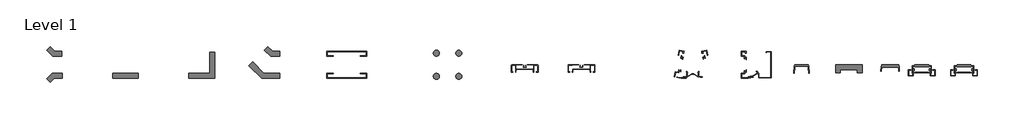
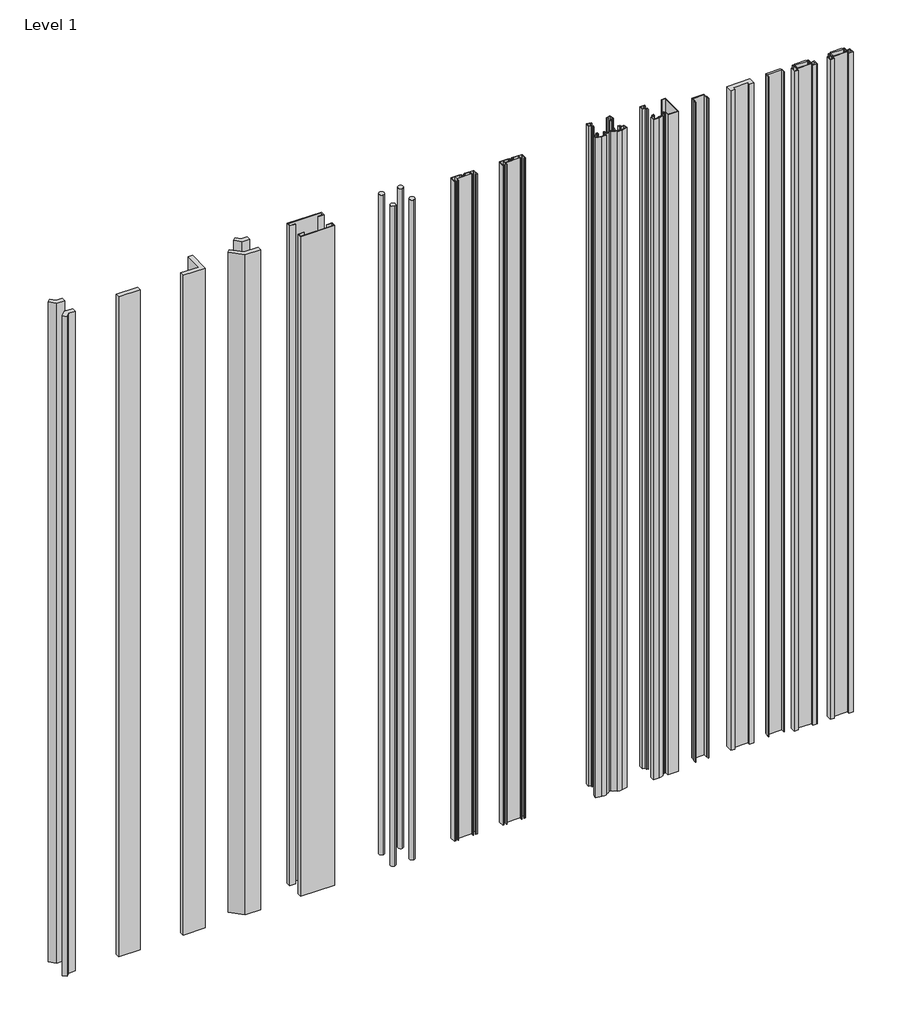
# One storey, incomplete: 15 proxies.
"""IFC4 building model written with IfcOpenShell, lengths in millimetres."""

from ifc_helpers import new_model, si_unit, origin, place, context, project, spatial, transform, mapped, element, save
from components import specialty_equipment_fa887806, specialty_equipment_7dc3c72a, specialty_equipment_0dd9da7d, specialty_equipment_5bb1abb4, specialty_equipment_8b8a6108, four_way_connection_a5283016, wall_start_dd3a8c03, three_way_corner_1816b13c, two_way_fc3571d5, two_way_corner_a34cc39f, wall_end_62e6ae35, wall_end_835682c7, wall_start_b15cfce1

model = new_model("IFC4")

# Units and contexts
model_context = context("Model", 3, world=origin())
ifc_project = project(units=[si_unit("LENGTHUNIT", "METRE", prefix="MILLI")], contexts=[model_context])

# Site, building, storey
site = spatial("IfcSite", under=ifc_project)
building = spatial("IfcBuilding", under=site)
storey = spatial("IfcBuildingStorey", under=building, Name="Level 1", Elevation=0.0)

# Proxies
placement = place(None, origin())
specialty_equipment_shape = specialty_equipment_fa887806(model_context)
element("IfcBuildingElementProxy", 1, Name="Connection-Corner-Teknion-Altos-Three_Way_FKCH133 : 135º Connection", ObjectType="Connection-Corner-Teknion-Altos-Three_Way_FKCH133 : 135º Connection", at=placement, inside=storey, context=model_context, shape_type="MappedRepresentation", body=[
    mapped(specialty_equipment_shape, transform((12943.5865879, 1812.3522105, 0.0), x_axis=(1.0, 0.0, 0.0), y_axis=(0.0, 1.0, 0.0), z_axis=(0.0, 0.0, 1.0))),
])
specialty_equipment_2_shape = specialty_equipment_7dc3c72a(model_context)
element("IfcBuildingElementProxy", 2, Name="Connection-Corner-Teknion-Altos-Two_Way_FKCH90 : 90º Connection", ObjectType="Connection-Corner-Teknion-Altos-Two_Way_FKCH90 : 90º Connection", at=placement, inside=storey, context=model_context, shape_type="MappedRepresentation", body=[
    mapped(specialty_equipment_2_shape, transform((13511.6759184, 1812.3522105, 0.0), x_axis=(1.0, 0.0, 0.0), y_axis=(0.0, 1.0, 0.0), z_axis=(0.0, 0.0, 1.0))),
])
specialty_equipment_3_shape = specialty_equipment_0dd9da7d(model_context)
element("IfcBuildingElementProxy", 3, Name="Connection-Corner-Teknion-Altos-Three_Way_FKCH180 : 180º Connection", ObjectType="Connection-Corner-Teknion-Altos-Three_Way_FKCH180 : 180º Connection", at=placement, inside=storey, context=model_context, shape_type="MappedRepresentation", body=[
    mapped(specialty_equipment_3_shape, transform((13228.8906757, 1812.3522105, 0.0), x_axis=(1.0, 0.0, 0.0), y_axis=(0.0, 1.0, 0.0), z_axis=(0.0, 0.0, 1.0))),
])
specialty_equipment_4_shape = specialty_equipment_5bb1abb4(model_context)
element("IfcBuildingElementProxy", 4, Name="Connection-Corner-Teknion-Altos-Two_Way_FKCH132 : 135º Connection", ObjectType="Connection-Corner-Teknion-Altos-Two_Way_FKCH132 : 135º Connection", at=placement, inside=storey, context=model_context, shape_type="MappedRepresentation", body=[
    mapped(specialty_equipment_4_shape, transform((13753.5317181, 1812.3522105, 0.0), x_axis=(1.0, 0.0, 0.0), y_axis=(0.0, 1.0, 0.0), z_axis=(0.0, 0.0, 1.0))),
])
specialty_equipment_5_shape = specialty_equipment_8b8a6108(model_context)
element("IfcBuildingElementProxy", 5, Name="Connection-Teknion-Altos-Three_Way_On_Off_Module_FKM3 : 180º Connection, Off-Module", ObjectType="Connection-Teknion-Altos-Three_Way_On_Off_Module_FKM3 : 180º Connection, Off-Module", at=placement, inside=storey, context=model_context, shape_type="MappedRepresentation", body=[
    mapped(specialty_equipment_5_shape, transform((14713.5488778, 1812.3522105, 0.0), x_axis=(1.0, 0.0, 0.0), y_axis=(0.0, 1.0, 0.0), z_axis=(0.0, 0.0, 1.0))),
])
element("IfcBuildingElementProxy", 6, Name="Connection-Teknion-Altos-Three_Way_On_Off_Module_FKM3 : 180º Connection, On-Module", ObjectType="Connection-Teknion-Altos-Three_Way_On_Off_Module_FKM3 : 180º Connection, On-Module", at=placement, inside=storey, context=model_context, shape_type="MappedRepresentation", body=[
    mapped(specialty_equipment_5_shape, transform((14925.0889178, 1812.3522105, 0.0), x_axis=(1.0, 0.0, 0.0), y_axis=(0.0, 1.0, 0.0), z_axis=(0.0, 0.0, 1.0))),
])
four_way_connection_shape = four_way_connection_a5283016(model_context)
element("IfcBuildingElementProxy", 7, Name="Connection-Teknion-Altos-Four_Way_FKC4 : Four Way Connection", ObjectType="Connection-Teknion-Altos-Four_Way_FKC4 : Four Way Connection", at=placement, inside=storey, context=model_context, shape_type="MappedRepresentation", body=[
    mapped(four_way_connection_shape, transform((14427.1280266, 1812.3522105, 0.0), x_axis=(1.0, 0.0, 0.0), y_axis=(0.0, 1.0, 0.0), z_axis=(0.0, 0.0, 1.0))),
])
wall_start_shape = wall_start_dd3a8c03(model_context)
element("IfcBuildingElementProxy", 8, Name="Connection-Portrait_Adjustable_Wall_Start-Teknion-Altos-FPKW : Portrait Adjustable Wall Start", ObjectType="Connection-Portrait_Adjustable_Wall_Start-Teknion-Altos-FPKW : Portrait Adjustable Wall Start", at=placement, inside=storey, context=model_context, shape_type="MappedRepresentation", body=[
    mapped(wall_start_shape, transform((16190.9464942, 1812.3522105, 0.0), x_axis=(0.0, -1.0, 0.0), y_axis=(1.0, 0.0, 0.0), z_axis=(0.0, 0.0, 1.0))),
])
three_way_corner_shape = three_way_corner_1816b13c(model_context)
element("IfcBuildingElementProxy", 9, Name="Connection-Variable_Angle-Teknion-Altos-Three_Way_FKCA3 : Three Way Corner", ObjectType="Connection-Variable_Angle-Teknion-Altos-Three_Way_FKCA3 : Three Way Corner", at=placement, inside=storey, context=model_context, shape_type="MappedRepresentation", body=[
    mapped(three_way_corner_shape, transform((15339.1734466, 1863.9217334, 0.0), x_axis=(1.0, 0.0, 0.0), y_axis=(0.0, 1.0, 0.0), z_axis=(0.0, 0.0, 1.0))),
])
two_way_shape = two_way_fc3571d5(model_context)
element("IfcBuildingElementProxy", 10, Name="Connection-Teknion-Altos-Aluminum_Fascia_FFFK : Two Way", ObjectType="Connection-Teknion-Altos-Aluminum_Fascia_FFFK : Two Way", at=placement, inside=storey, context=model_context, shape_type="MappedRepresentation", body=[
    mapped(two_way_shape, transform((14054.8276645, 1812.3522105, 0.0), x_axis=(1.0, 0.0, 0.0), y_axis=(0.0, 1.0, 0.0), z_axis=(0.0, 0.0, 1.0))),
])
two_way_corner_shape = two_way_corner_a34cc39f(model_context)
element("IfcBuildingElementProxy", 11, Name="Connection-Variable_Angle-Teknion-Altos-Two_Way_FKCA2 : Two Way Corner", ObjectType="Connection-Variable_Angle-Teknion-Altos-Two_Way_FKCA2 : Two Way Corner", at=placement, inside=storey, context=model_context, shape_type="MappedRepresentation", body=[
    mapped(two_way_corner_shape, transform((15580.6292085, 1812.3522105, 0.0), x_axis=(1.0, 0.0, 0.0), y_axis=(0.0, 1.0, 0.0), z_axis=(0.0, 0.0, 1.0))),
])
wall_end_shape = wall_end_62e6ae35(model_context)
element("IfcBuildingElementProxy", 12, Name="Connection-Wall_End-Teknion-Altos-FKE : Wall End", ObjectType="Connection-Wall_End-Teknion-Altos-FKE : Wall End", at=placement, inside=storey, context=model_context, shape_type="MappedRepresentation", body=[
    mapped(wall_end_shape, transform((15743.6208093, 1812.3522105, 0.0), x_axis=(0.0, -1.0000000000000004, 0.0), y_axis=(1.0000000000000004, 0.0, 0.0), z_axis=(0.0, 0.0, 1.0))),
])
wall_end_2_shape = wall_end_835682c7(model_context)
element("IfcBuildingElementProxy", 13, Name="Connection-Wall_End-Teknion-Altos-FKF : Wall End", ObjectType="Connection-Wall_End-Teknion-Altos-FKF : Wall End", at=placement, inside=storey, context=model_context, shape_type="MappedRepresentation", body=[
    mapped(wall_end_2_shape, transform((15919.9923176, 1812.3522105, 0.0), x_axis=(0.0, 1.0000000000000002, 0.0), y_axis=(-1.0000000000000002, 0.0, 0.0), z_axis=(0.0, 0.0, 1.0))),
])
wall_start_2_shape = wall_start_b15cfce1(model_context)
element("IfcBuildingElementProxy", 14, Name="Connection-Wall_Start-Teknion-Altos-FKW : Wall Start", ObjectType="Connection-Wall_Start-Teknion-Altos-FKW : Wall Start", at=placement, inside=storey, context=model_context, shape_type="MappedRepresentation", body=[
    mapped(wall_start_2_shape, transform((16073.2530765, 1812.3522105, 0.0), x_axis=(0.0, -1.0000000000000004, 0.0), y_axis=(1.0000000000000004, 0.0, 0.0), z_axis=(0.0, 0.0, 1.0))),
])
element("IfcBuildingElementProxy", 15, Name="Connection-Landscape_Adjustable_Wall_Start-Teknion-Altos-FLKW : Wall Start", ObjectType="Connection-Landscape_Adjustable_Wall_Start-Teknion-Altos-FLKW : Wall Start", at=placement, inside=storey, context=model_context, shape_type="MappedRepresentation", body=[
    mapped(wall_start_shape, transform((16347.9710481, 1812.3522105, 0.0), x_axis=(0.0, -1.0, 0.0), y_axis=(1.0, 0.0, 0.0), z_axis=(0.0, 0.0, 1.0))),
])

save(model, "model.ifc")
